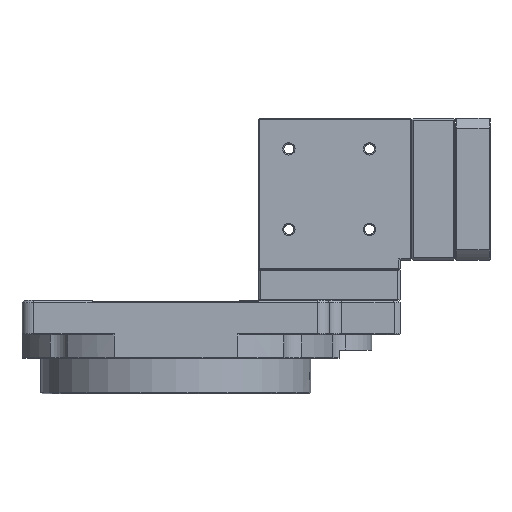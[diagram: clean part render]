
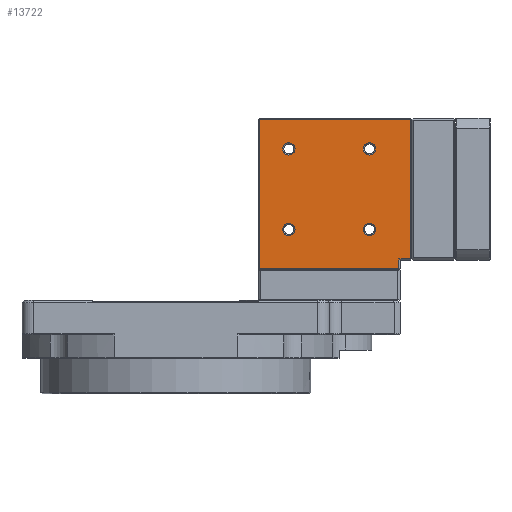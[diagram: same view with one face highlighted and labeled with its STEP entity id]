
A CAD part, left-side view. The second image highlights one B-rep face of the part: STEP entity #13722.
In plain terms, the highlighted planar face has unit normal (-1, 0, 0).
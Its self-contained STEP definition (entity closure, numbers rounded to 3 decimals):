
#383 = DIRECTION ( 'NONE',  ( 0., 1., 0. ) ) ;
#386 = ORIENTED_EDGE ( 'NONE', *, *, #8261, .T. ) ;
#492 = CIRCLE ( 'NONE', #17110, 2.6 ) ;
#584 = CIRCLE ( 'NONE', #12925, 2.6 ) ;
#752 = EDGE_CURVE ( 'NONE', #4539, #12891, #19413, .T. ) ;
#1258 = DIRECTION ( 'NONE',  ( 1., 0., 0. ) ) ;
#1432 = DIRECTION ( 'NONE',  ( 1., 0., 0. ) ) ;
#1501 = DIRECTION ( 'NONE',  ( 1., 0., 0. ) ) ;
#1606 = ORIENTED_EDGE ( 'NONE', *, *, #11202, .T. ) ;
#1686 = EDGE_LOOP ( 'NONE', ( #22371, #386, #25991, #21167, #23226, #1606 ) ) ;
#1730 = VECTOR ( 'NONE', #18295, 1000. ) ;
#2048 = DIRECTION ( 'NONE',  ( 0., 1., 0. ) ) ;
#2351 = ORIENTED_EDGE ( 'NONE', *, *, #25294, .T. ) ;
#3030 = EDGE_CURVE ( 'NONE', #17224, #14756, #19390, .T. ) ;
#3072 = ORIENTED_EDGE ( 'NONE', *, *, #20038, .T. ) ;
#3171 = CARTESIAN_POINT ( 'NONE',  ( -30., -94.3, 17.5 ) ) ;
#3597 = DIRECTION ( 'NONE',  ( 1., 0., 0. ) ) ;
#3657 = CARTESIAN_POINT ( 'NONE',  ( -30., -35.3, 13. ) ) ;
#3857 = EDGE_CURVE ( 'NONE', #25072, #9362, #14654, .T. ) ;
#4098 = AXIS2_PLACEMENT_3D ( 'NONE', #9986, #3597, #23879 ) ;
#4105 = ORIENTED_EDGE ( 'NONE', *, *, #18393, .T. ) ;
#4539 = VERTEX_POINT ( 'NONE', #10933 ) ;
#4630 = DIRECTION ( 'NONE',  ( 1., 0., 0. ) ) ;
#5049 = CARTESIAN_POINT ( 'NONE',  ( -30., -99.3, 76.5 ) ) ;
#5623 = LINE ( 'NONE', #26041, #1730 ) ;
#6083 = CARTESIAN_POINT ( 'NONE',  ( -30., -50.4, 30. ) ) ;
#6337 = LINE ( 'NONE', #24882, #23738 ) ;
#6402 = VECTOR ( 'NONE', #7021, 1000. ) ;
#7021 = DIRECTION ( 'NONE',  ( 0., -1., 0. ) ) ;
#7124 = CARTESIAN_POINT ( 'NONE',  ( -30., -81.8, 64. ) ) ;
#7139 = ORIENTED_EDGE ( 'NONE', *, *, #25858, .T. ) ;
#7368 = CIRCLE ( 'NONE', #18039, 2.6 ) ;
#7824 = CARTESIAN_POINT ( 'NONE',  ( -30., -45.2, 64. ) ) ;
#7852 = DIRECTION ( 'NONE',  ( 0., 0., 1. ) ) ;
#7973 = AXIS2_PLACEMENT_3D ( 'NONE', #9183, #25849, #13827 ) ;
#8261 = EDGE_CURVE ( 'NONE', #21583, #12764, #5623, .T. ) ;
#8323 = AXIS2_PLACEMENT_3D ( 'NONE', #7124, #1258, #9396 ) ;
#9183 = CARTESIAN_POINT ( 'NONE',  ( -30., -81.8, 30. ) ) ;
#9362 = VERTEX_POINT ( 'NONE', #26387 ) ;
#9396 = DIRECTION ( 'NONE',  ( 0., 1., 0. ) ) ;
#9564 = CARTESIAN_POINT ( 'NONE',  ( -30., -47.8, 30. ) ) ;
#9565 = CARTESIAN_POINT ( 'NONE',  ( -30., -79.2, 30. ) ) ;
#9733 = CARTESIAN_POINT ( 'NONE',  ( -30., -99.3, 77. ) ) ;
#9771 = FACE_BOUND ( 'NONE', #24857, .T. ) ;
#9889 = EDGE_CURVE ( 'NONE', #12764, #15660, #6337, .T. ) ;
#9894 = VECTOR ( 'NONE', #2048, 1000. ) ;
#9986 = CARTESIAN_POINT ( 'NONE',  ( -30., -81.8, 64. ) ) ;
#10879 = DIRECTION ( 'NONE',  ( 0., 1., 0. ) ) ;
#10929 = CARTESIAN_POINT ( 'NONE',  ( -30., -99.3, 17.5 ) ) ;
#10933 = CARTESIAN_POINT ( 'NONE',  ( -30., -79.2, 64. ) ) ;
#11194 = VERTEX_POINT ( 'NONE', #15685 ) ;
#11202 = EDGE_CURVE ( 'NONE', #11194, #13525, #24063, .T. ) ;
#11289 = EDGE_CURVE ( 'NONE', #21513, #11194, #13664, .T. ) ;
#12000 = VECTOR ( 'NONE', #26070, 1000. ) ;
#12179 = CARTESIAN_POINT ( 'NONE',  ( -30., -99.8, 76.5 ) ) ;
#12465 = DIRECTION ( 'NONE',  ( 0., -1., 0. ) ) ;
#12652 = CIRCLE ( 'NONE', #7973, 2.6 ) ;
#12764 = VERTEX_POINT ( 'NONE', #3171 ) ;
#12891 = VERTEX_POINT ( 'NONE', #13703 ) ;
#12925 = AXIS2_PLACEMENT_3D ( 'NONE', #23521, #1501, #25920 ) ;
#13052 = VERTEX_POINT ( 'NONE', #6083 ) ;
#13371 = AXIS2_PLACEMENT_3D ( 'NONE', #14372, #4630, #383 ) ;
#13525 = VERTEX_POINT ( 'NONE', #20073 ) ;
#13664 = LINE ( 'NONE', #12179, #9894 ) ;
#13703 = CARTESIAN_POINT ( 'NONE',  ( -30., -84.4, 64. ) ) ;
#13722 = ADVANCED_FACE ( 'NONE', ( #9771, #25526, #21665, #19394, #23795 ), #23658, .T. ) ;
#13827 = DIRECTION ( 'NONE',  ( 0., 1., 0. ) ) ;
#13911 = CARTESIAN_POINT ( 'NONE',  ( -30., -94.8, 13.5 ) ) ;
#14368 = AXIS2_PLACEMENT_3D ( 'NONE', #15525, #17527, #19660 ) ;
#14372 = CARTESIAN_POINT ( 'NONE',  ( -30., -47.8, 64. ) ) ;
#14586 = VECTOR ( 'NONE', #7852, 1000. ) ;
#14654 = CIRCLE ( 'NONE', #13371, 2.6 ) ;
#14756 = VERTEX_POINT ( 'NONE', #18737 ) ;
#15525 = CARTESIAN_POINT ( 'NONE',  ( -30., -99.8, 77. ) ) ;
#15660 = VERTEX_POINT ( 'NONE', #10929 ) ;
#15685 = CARTESIAN_POINT ( 'NONE',  ( -30., -35.3, 76.5 ) ) ;
#15944 = EDGE_LOOP ( 'NONE', ( #16118, #2351 ) ) ;
#16118 = ORIENTED_EDGE ( 'NONE', *, *, #3857, .T. ) ;
#16215 = EDGE_CURVE ( 'NONE', #13525, #21583, #25936, .T. ) ;
#16275 = EDGE_LOOP ( 'NONE', ( #7139, #19203 ) ) ;
#16455 = CARTESIAN_POINT ( 'NONE',  ( -30., -81.8, 30. ) ) ;
#17110 = AXIS2_PLACEMENT_3D ( 'NONE', #9564, #1432, #25713 ) ;
#17224 = VERTEX_POINT ( 'NONE', #9565 ) ;
#17527 = DIRECTION ( 'NONE',  ( -1., 0., 0. ) ) ;
#17726 = CARTESIAN_POINT ( 'NONE',  ( -30., -45.2, 30. ) ) ;
#18039 = AXIS2_PLACEMENT_3D ( 'NONE', #23294, #21286, #10879 ) ;
#18295 = DIRECTION ( 'NONE',  ( 0., 0., 1. ) ) ;
#18393 = EDGE_CURVE ( 'NONE', #14756, #17224, #12652, .T. ) ;
#18737 = CARTESIAN_POINT ( 'NONE',  ( -30., -84.4, 30. ) ) ;
#19203 = ORIENTED_EDGE ( 'NONE', *, *, #23937, .T. ) ;
#19390 = CIRCLE ( 'NONE', #24506, 2.6 ) ;
#19394 = FACE_BOUND ( 'NONE', #22214, .T. ) ;
#19413 = CIRCLE ( 'NONE', #8323, 2.6 ) ;
#19597 = VERTEX_POINT ( 'NONE', #17726 ) ;
#19660 = DIRECTION ( 'NONE',  ( 0., 1., 0. ) ) ;
#20038 = EDGE_CURVE ( 'NONE', #12891, #4539, #25839, .T. ) ;
#20073 = CARTESIAN_POINT ( 'NONE',  ( -30., -35.3, 13.5 ) ) ;
#21167 = ORIENTED_EDGE ( 'NONE', *, *, #24653, .T. ) ;
#21201 = CARTESIAN_POINT ( 'NONE',  ( -30., -94.3, 13.5 ) ) ;
#21286 = DIRECTION ( 'NONE',  ( 1., 0., 0. ) ) ;
#21513 = VERTEX_POINT ( 'NONE', #5049 ) ;
#21583 = VERTEX_POINT ( 'NONE', #21201 ) ;
#21665 = FACE_BOUND ( 'NONE', #16275, .T. ) ;
#22109 = ORIENTED_EDGE ( 'NONE', *, *, #3030, .T. ) ;
#22214 = EDGE_LOOP ( 'NONE', ( #22109, #4105 ) ) ;
#22371 = ORIENTED_EDGE ( 'NONE', *, *, #16215, .T. ) ;
#22582 = DIRECTION ( 'NONE',  ( 0., 1., 0. ) ) ;
#23151 = ORIENTED_EDGE ( 'NONE', *, *, #752, .T. ) ;
#23226 = ORIENTED_EDGE ( 'NONE', *, *, #11289, .T. ) ;
#23294 = CARTESIAN_POINT ( 'NONE',  ( -30., -47.8, 64. ) ) ;
#23521 = CARTESIAN_POINT ( 'NONE',  ( -30., -47.8, 30. ) ) ;
#23658 = PLANE ( 'NONE',  #14368 ) ;
#23738 = VECTOR ( 'NONE', #12465, 1000. ) ;
#23795 = FACE_OUTER_BOUND ( 'NONE', #1686, .T. ) ;
#23879 = DIRECTION ( 'NONE',  ( 0., 1., 0. ) ) ;
#23937 = EDGE_CURVE ( 'NONE', #13052, #19597, #492, .T. ) ;
#24063 = LINE ( 'NONE', #3657, #12000 ) ;
#24506 = AXIS2_PLACEMENT_3D ( 'NONE', #16455, #24584, #22582 ) ;
#24584 = DIRECTION ( 'NONE',  ( 1., 0., 0. ) ) ;
#24653 = EDGE_CURVE ( 'NONE', #15660, #21513, #26132, .T. ) ;
#24857 = EDGE_LOOP ( 'NONE', ( #23151, #3072 ) ) ;
#24882 = CARTESIAN_POINT ( 'NONE',  ( -30., -99.8, 17.5 ) ) ;
#25072 = VERTEX_POINT ( 'NONE', #7824 ) ;
#25294 = EDGE_CURVE ( 'NONE', #9362, #25072, #7368, .T. ) ;
#25526 = FACE_BOUND ( 'NONE', #15944, .T. ) ;
#25713 = DIRECTION ( 'NONE',  ( 0., 1., 0. ) ) ;
#25839 = CIRCLE ( 'NONE', #4098, 2.6 ) ;
#25849 = DIRECTION ( 'NONE',  ( 1., 0., 0. ) ) ;
#25858 = EDGE_CURVE ( 'NONE', #19597, #13052, #584, .T. ) ;
#25920 = DIRECTION ( 'NONE',  ( 0., 1., 0. ) ) ;
#25936 = LINE ( 'NONE', #13911, #6402 ) ;
#25991 = ORIENTED_EDGE ( 'NONE', *, *, #9889, .T. ) ;
#26041 = CARTESIAN_POINT ( 'NONE',  ( -30., -94.3, 17. ) ) ;
#26070 = DIRECTION ( 'NONE',  ( 0., 0., -1. ) ) ;
#26132 = LINE ( 'NONE', #9733, #14586 ) ;
#26387 = CARTESIAN_POINT ( 'NONE',  ( -30., -50.4, 64. ) ) ;
